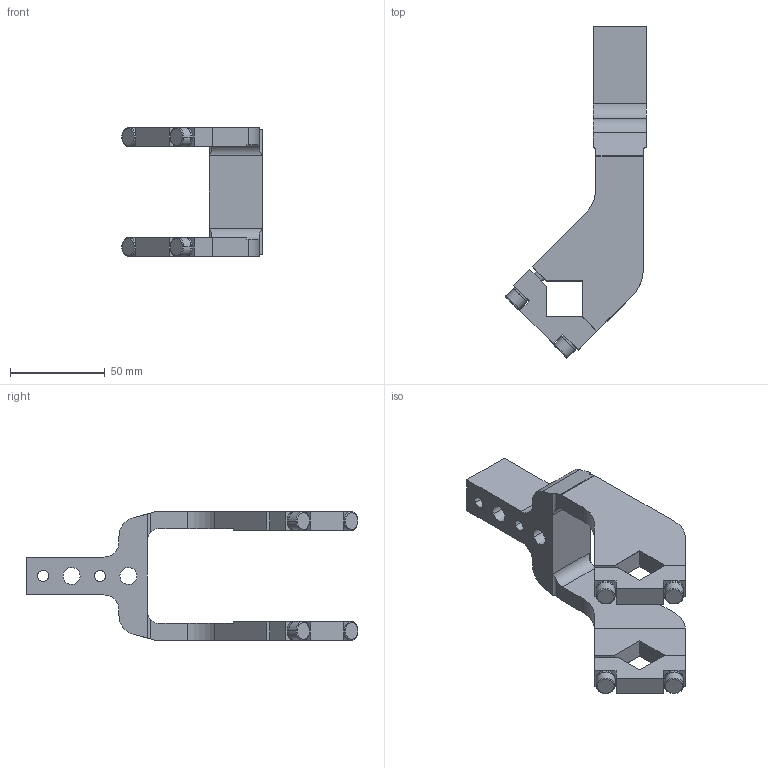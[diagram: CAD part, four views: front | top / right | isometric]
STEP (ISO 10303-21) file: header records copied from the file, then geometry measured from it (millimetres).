
FILE_DESCRIPTION(('CATIA V5 STEP Exchange'),'2;1');
FILE_NAME('E:\clampact\CLAMPACT\clampact\catalog\Clampact Arm\Arm 3D\Clampact Arm\arm_K50_15_A10_Clampact.stp','2022-12-06T07:52:57+00:00',('none'),('none'),'CATIA Version 5 Release 19 SP 6 (IN-10)','CATIA V5 STEP AP203','none');
FILE_SCHEMA(('CONFIG_CONTROL_DESIGN'));
Length unit declared in the file: millimetre
Products named in the file (1): K50_15_A10_Clampact_柯莱普
Bounding box: 74.05 x 175.05 x 68 mm (x, y, z)
Volume: 120228 mm3; surface area: 36254.8 mm2
Topology: 1 solids, 5 shells, 172 faces, 444 edges, 282 vertices
Faces by surface type: plane 84, cylinder 56, cone 20, torus 12
Entity records: 5126 total; most frequent: CARTESIAN_POINT 1229, ORIENTED_EDGE 872, DIRECTION 629, EDGE_CURVE 436, VERTEX_POINT 282, VECTOR 268, LINE 268, AXIS2_PLACEMENT_3D 242
